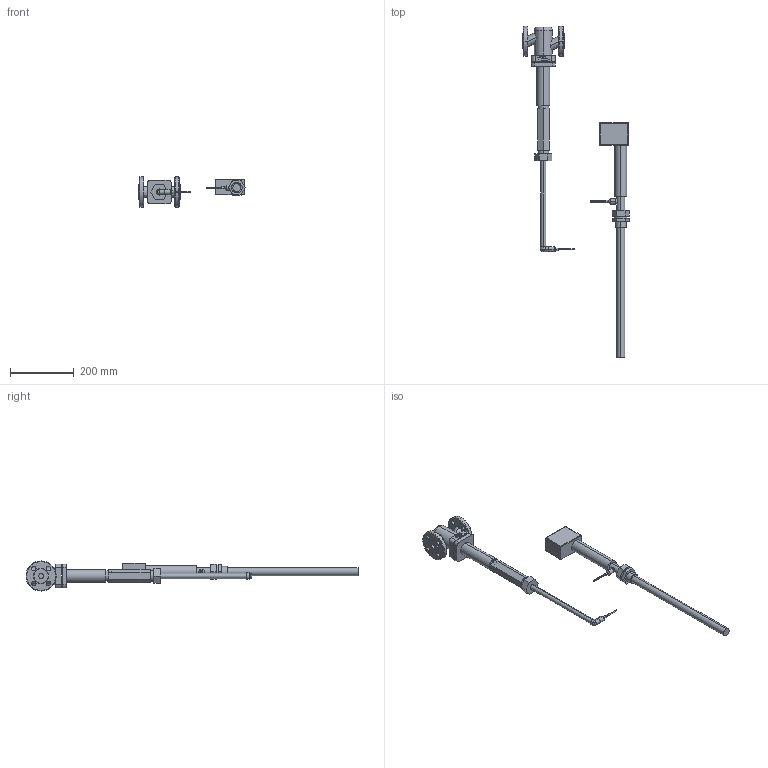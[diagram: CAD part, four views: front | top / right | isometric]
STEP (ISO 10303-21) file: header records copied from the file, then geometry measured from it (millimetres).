
FILE_DESCRIPTION (( 'STEP AP203' ), '1' );
FILE_NAME ('2111_SS_DIN_015_016-040_10619_B1_std_verlst_Typ2233_TL430_d25.STEP', '2010-03-09T08:49:27', ( '' ), ( '' ), 'SwSTEP 2.0', 'SolidWorks 2006303', '' );
FILE_SCHEMA (( 'CONFIG_CONTROL_DESIGN' ));
Length unit declared in the file: millimetre
Products named in the file (1): 2111_SS_DIN_015_016-040_10619_B1_std_verlst_Typ2233_TL430_d25
Bounding box: 335.5 x 1044.5 x 95 mm (x, y, z)
Surface area: 240321.2 mm2 (no closed solid volume)
Topology: 0 solids, 12 shells, 182 faces, 529 edges, 377 vertices
Faces by surface type: plane 85, cylinder 70, torus 14, cone 7, bspline 5, sphere 1
Entity records: 7188 total; most frequent: CARTESIAN_POINT 2267, DIRECTION 1010, ORIENTED_EDGE 913, EDGE_CURVE 529, VERTEX_POINT 377, AXIS2_PLACEMENT_3D 365, VECTOR 280, LINE 280
